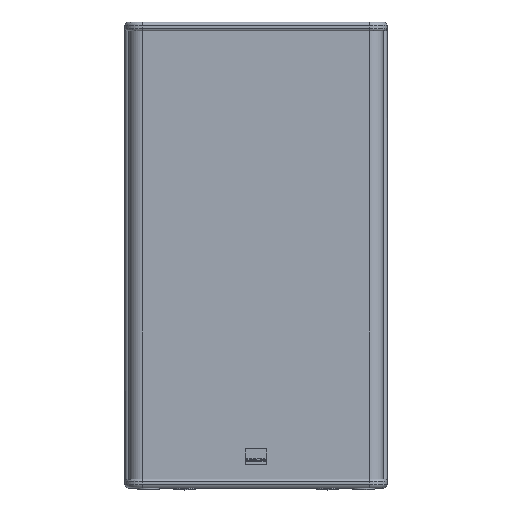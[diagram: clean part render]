
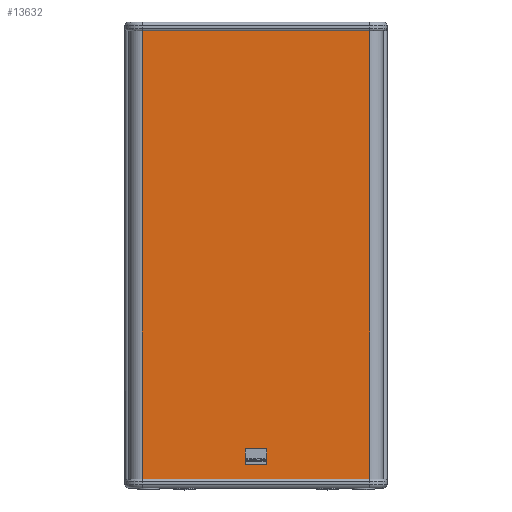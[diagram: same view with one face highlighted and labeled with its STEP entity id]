
A CAD part, top view. The second image highlights one B-rep face of the part: STEP entity #13632.
In plain terms, the highlighted planar face has unit normal (0, 0, 1) as drawn and (0, -1, 0) by its records, which use the part's own axes.
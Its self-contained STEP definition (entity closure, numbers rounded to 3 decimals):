
#4533 = DIRECTION ( 'NONE',  ( 0., 0., 1. ) ) ;
#4534 = VECTOR ( 'NONE', #4533, 1000. ) ;
#4535 = CARTESIAN_POINT ( 'NONE',  ( 30., 6.444, 0. ) ) ;
#4536 = LINE ( 'NONE', #4535, #4534 ) ;
#4537 = CARTESIAN_POINT ( 'NONE',  ( 30., 6.444, 770. ) ) ;
#4538 = DIRECTION ( 'NONE',  ( 1., 0., 0. ) ) ;
#4539 = VECTOR ( 'NONE', #4538, 1000. ) ;
#4540 = CARTESIAN_POINT ( 'NONE',  ( 6.444, 6.444, 770. ) ) ;
#4541 = LINE ( 'NONE', #4540, #4539 ) ;
#4542 = CARTESIAN_POINT ( 'NONE',  ( 420., 6.444, 770. ) ) ;
#4543 = DIRECTION ( 'NONE',  ( 0., 0., -1. ) ) ;
#4544 = VECTOR ( 'NONE', #4543, 1000. ) ;
#4545 = CARTESIAN_POINT ( 'NONE',  ( 420., 6.444, 0. ) ) ;
#4546 = LINE ( 'NONE', #4545, #4544 ) ;
#4547 = CARTESIAN_POINT ( 'NONE',  ( 420., 6.444, 0. ) ) ;
#4664 = CARTESIAN_POINT ( 'NONE',  ( 30., 6.444, 0. ) ) ;
#4665 = DIRECTION ( 'NONE',  ( 1., 0., 0. ) ) ;
#4666 = VECTOR ( 'NONE', #4665, 1000. ) ;
#4667 = CARTESIAN_POINT ( 'NONE',  ( 224.985, 6.444, 0. ) ) ;
#4668 = DIRECTION ( 'NONE',  ( 1., 0., 0. ) ) ;
#4669 = DIRECTION ( 'NONE',  ( 0., -1., 0. ) ) ;
#4670 = CARTESIAN_POINT ( 'NONE',  ( 420., 6.444, 0. ) ) ;
#4671 = LINE ( 'NONE', #4667, #4666 ) ;
#4672 = AXIS2_PLACEMENT_3D ( 'NONE', #4670, #4669, #4668 ) ;
#4673 = PLANE ( 'NONE',  #4672 ) ;
#4674 = FACE_OUTER_BOUND ( 'NONE', #13633, .T. ) ;
#13558 = VERTEX_POINT ( 'NONE', #4547 ) ;
#13559 = ORIENTED_EDGE ( 'NONE', *, *, #13560, .F. ) ;
#13560 = EDGE_CURVE ( 'NONE', #13561, #13558, #4546, .T. ) ;
#13561 = VERTEX_POINT ( 'NONE', #4542 ) ;
#13562 = ORIENTED_EDGE ( 'NONE', *, *, #13563, .F. ) ;
#13563 = EDGE_CURVE ( 'NONE', #13564, #13561, #4541, .T. ) ;
#13564 = VERTEX_POINT ( 'NONE', #4537 ) ;
#13565 = ORIENTED_EDGE ( 'NONE', *, *, #13566, .F. ) ;
#13566 = EDGE_CURVE ( 'NONE', #13636, #13564, #4536, .T. ) ;
#13632 = ADVANCED_FACE ( 'NONE', ( #4674 ), #4673, .T. ) ;
#13633 = EDGE_LOOP ( 'NONE', ( #13634, #13559, #13562, #13565 ) ) ;
#13634 = ORIENTED_EDGE ( 'NONE', *, *, #13635, .T. ) ;
#13635 = EDGE_CURVE ( 'NONE', #13636, #13558, #4671, .T. ) ;
#13636 = VERTEX_POINT ( 'NONE', #4664 ) ;
